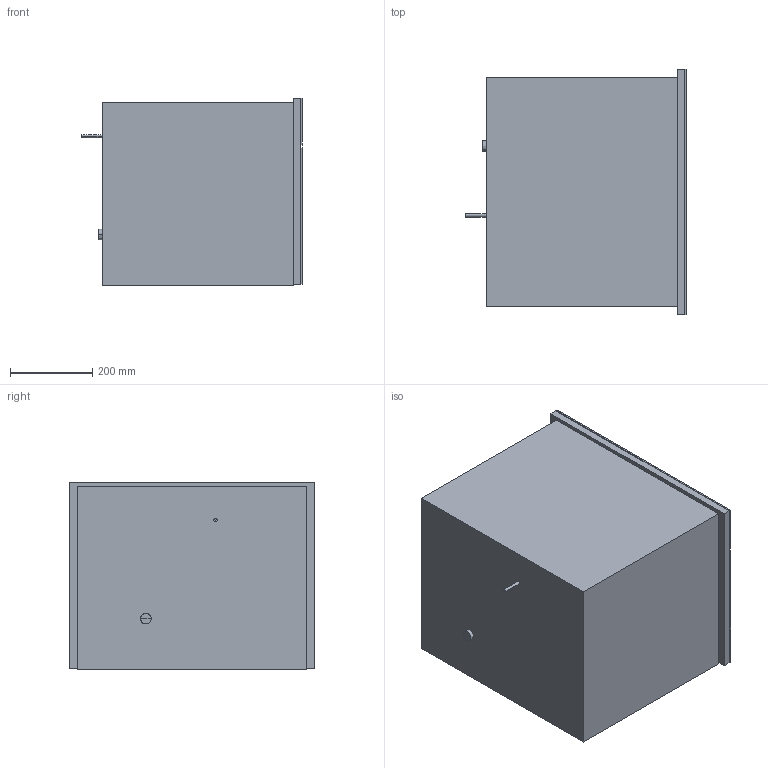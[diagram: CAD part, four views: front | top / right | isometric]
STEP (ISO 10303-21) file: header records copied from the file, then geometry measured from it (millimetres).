
FILE_DESCRIPTION(/* description */ (''),/* implementation_level */ '2;1');
FILE_NAME(/* name */ 'CVA6401_BRWS',/* time_stamp */ '2013-04-22T15:49:47+02:00',/* author */ (''),/* organization */ (''),/* preprocessor_version */ 'ST-DEVELOPER v10',/* originating_system */ '',/* authorisation */ '');
FILE_SCHEMA (('AUTOMOTIVE_DESIGN_CC2'));
Length unit declared in the file: millimetre
Products named in the file (1): 1
Bounding box: 535.88 x 595.11 x 455.5 mm (x, y, z)
Volume: 111351702.1 mm3; surface area: 2402006.8 mm2
Topology: 14 solids, 14 shells, 104 faces, 239 edges, 136 vertices
Faces by surface type: bspline 104
Entity records: 6057 total; most frequent: CARTESIAN_POINT 4517, ORIENTED_EDGE 422, EDGE_CURVE 211, B_SPLINE_CURVE_WITH_KNOTS 198, VERTEX_POINT 136, EDGE_LOOP 107, ADVANCED_FACE 104, FACE_OUTER_BOUND 104
